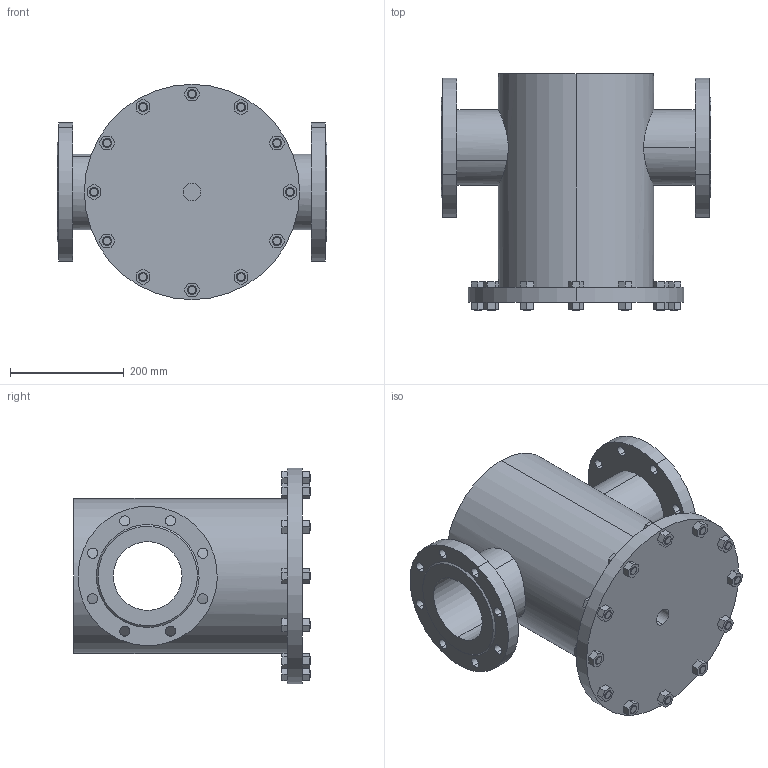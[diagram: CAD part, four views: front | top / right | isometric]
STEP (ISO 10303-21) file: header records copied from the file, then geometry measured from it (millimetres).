
FILE_DESCRIPTION (( 'STEP AP214' ), '1' );
FILE_NAME ('DN125 PN16.STEP', '2025-08-08T13:31:57', ( '' ), ( '' ), 'SwSTEP 2.0', 'SolidWorks 2023', '' );
FILE_SCHEMA (( 'AUTOMOTIVE_DESIGN' ));
Length unit declared in the file: millimetre
Products named in the file (1): DN125 PN16
Bounding box: 475 x 416 x 379 mm (x, y, z)
Volume: 23725196.5 mm3; surface area: 1024083 mm2
Topology: 1 solids, 1 shells, 272 faces, 672 edges, 448 vertices
Faces by surface type: plane 192, cylinder 52, cone 28
Entity records: 8837 total; most frequent: CARTESIAN_POINT 1697, DIRECTION 1370, ORIENTED_EDGE 1344, EDGE_CURVE 672, LINE 512, VECTOR 512, VERTEX_POINT 448, AXIS2_PLACEMENT_3D 429
